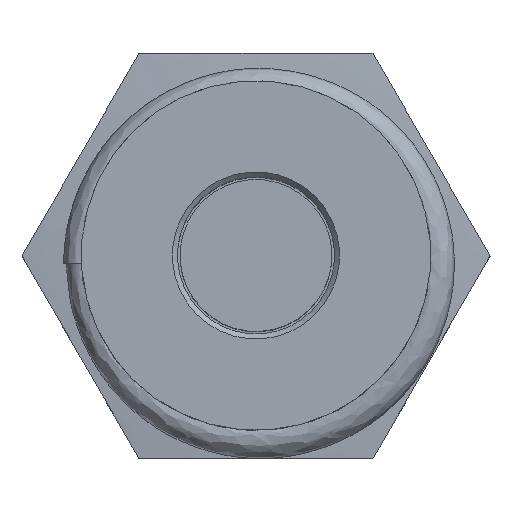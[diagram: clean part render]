
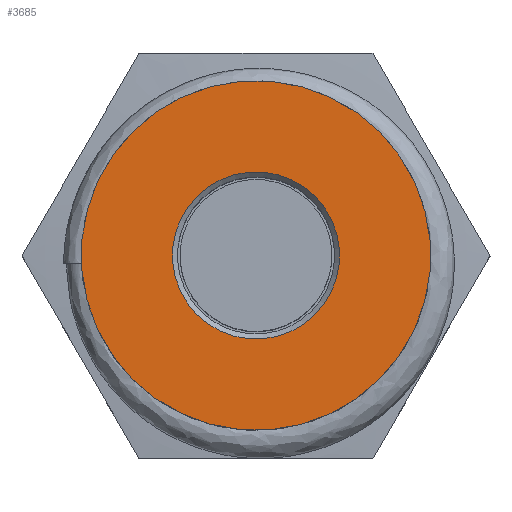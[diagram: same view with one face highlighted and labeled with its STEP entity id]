
A CAD part, top view. The second image highlights one B-rep face of the part: STEP entity #3685.
In plain terms, the highlighted planar face has unit normal (0, 0, 1).
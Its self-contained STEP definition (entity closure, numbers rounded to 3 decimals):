
#218=CIRCLE('',#4010,1.65);
#219=CIRCLE('',#4011,3.45);
#1160=ORIENTED_EDGE('',*,*,#1797,.T.);
#1161=ORIENTED_EDGE('',*,*,#1798,.F.);
#1797=EDGE_CURVE('',#2183,#2183,#218,.T.);
#1798=EDGE_CURVE('',#2184,#2184,#219,.T.);
#2183=VERTEX_POINT('',#8001);
#2184=VERTEX_POINT('',#8003);
#3068=EDGE_LOOP('',(#1160));
#3069=EDGE_LOOP('',(#1161));
#3311=FACE_BOUND('',#3068,.T.);
#3312=FACE_BOUND('',#3069,.T.);
#3493=PLANE('',#4009);
#3685=ADVANCED_FACE('',(#3311,#3312),#3493,.F.);
#4009=AXIS2_PLACEMENT_3D('',#7999,#4809,#4810);
#4010=AXIS2_PLACEMENT_3D('',#8000,#4811,#4812);
#4011=AXIS2_PLACEMENT_3D('',#8002,#4813,#4814);
#4809=DIRECTION('',(0.,0.,-1.));
#4810=DIRECTION('',(-1.,0.,0.));
#4811=DIRECTION('',(0.,0.,-1.));
#4812=DIRECTION('',(-1.,0.,0.));
#4813=DIRECTION('',(0.,0.,-1.));
#4814=DIRECTION('',(0.,1.,0.));
#7999=CARTESIAN_POINT('',(0.,0.,10.25));
#8000=CARTESIAN_POINT('',(0.,0.,10.25));
#8001=CARTESIAN_POINT('',(-1.65,0.,10.25));
#8002=CARTESIAN_POINT('',(0.,0.,10.25));
#8003=CARTESIAN_POINT('',(0.,3.45,10.25));
